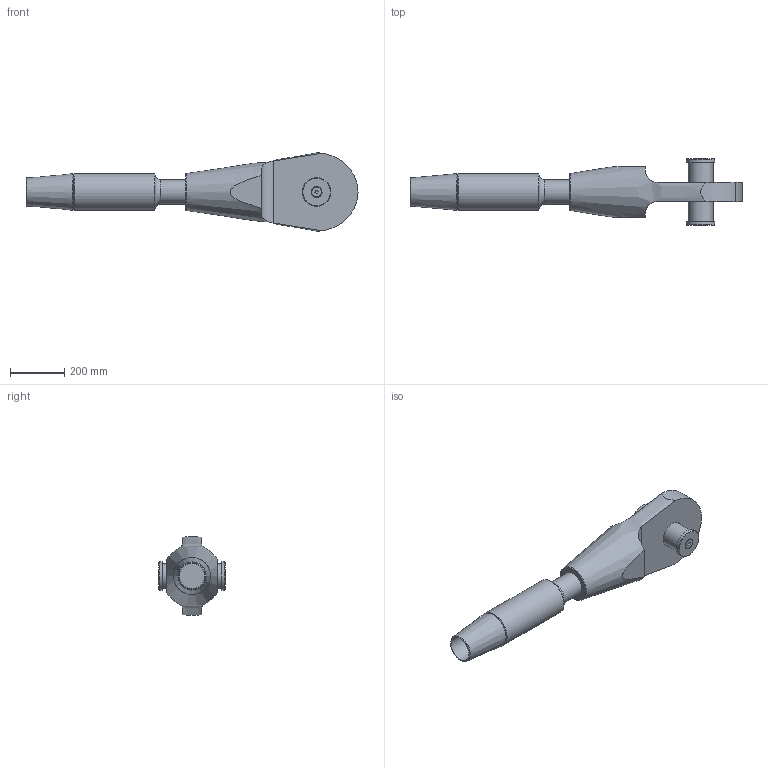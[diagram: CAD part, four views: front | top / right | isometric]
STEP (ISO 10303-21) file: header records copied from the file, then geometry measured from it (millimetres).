
FILE_DESCRIPTION(/* description */ (''),/* implementation_level */ '2;1');
FILE_NAME(/* name */ 'C:\Vault_WS\Designs\SB\01-PX\Verzinkt\ZSS\520 - Zusambau-OES-ADA\520-090-OES-ADA.stp',/* time_stamp */ '2020-10-08T09:58:02+02:00',/* author */ ('schwarz'),/* organization */ (''),/* preprocessor_version */ 'ST-DEVELOPER v18.1',/* originating_system */ 'Autodesk Inventor 2020',/* authorisation */ '');
FILE_SCHEMA (('AUTOMOTIVE_DESIGN { 1 0 10303 214 3 1 1 }'));
Length unit declared in the file: millimetre
Products named in the file (1): 520-090-OES-ADA-Kunde
Bounding box: 1219.5 x 246 x 287.52 mm (x, y, z)
Volume: 21538562.4 mm3; surface area: 911038 mm2
Topology: 8 solids, 8 shells, 76 faces, 186 edges, 128 vertices
Faces by surface type: plane 35, cylinder 20, cone 19, torus 2
Full cylindrical faces by diameter (mm): 17.294 x2, 20 x2, 22 x2, 36.05 x2, 90 x1, 92 x1, 93 x1, 95 x1, 105 x2, 135 x1
Entity records: 2530 total; most frequent: CARTESIAN_POINT 565, DIRECTION 394, ORIENTED_EDGE 364, EDGE_CURVE 182, AXIS2_PLACEMENT_3D 164, VERTEX_POINT 128, EDGE_LOOP 88, CIRCLE 87
